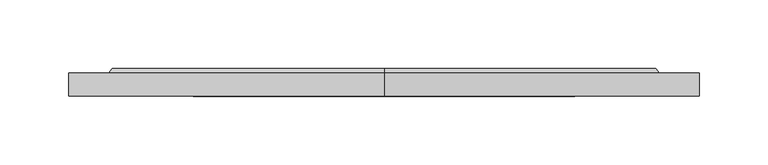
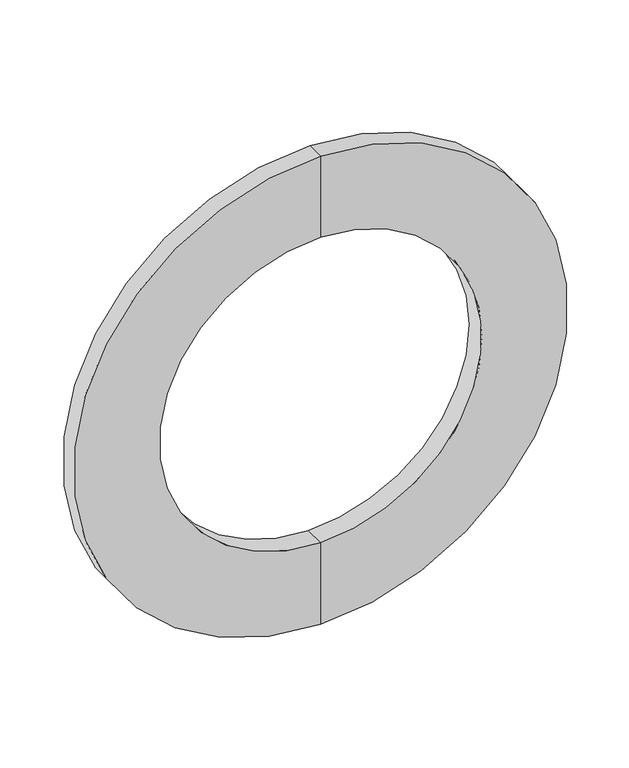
"""IFC4 building model written with IfcOpenShell, lengths in millimetres: pipe fitting geometry, Фланец : Фланец."""

from ifc_helpers import new_model, si_unit, frame, origin, place, context, project, spatial, polyline, circle_curve, source, transform, mapped, element, save
from ifc_brep_helpers import plane_surface, cylinder_surface, revolved_surface, advanced_brep


def pipe_fitting_c8a951b9(model_context):
    return source(origin(), model_context, "Body", "AdvancedBrep", [
        advanced_brep(
        [(0.0, 0.0, -230.0), (0.0, 0.0, 230.0), (0.0, 17.0, 230.0), (0.0, 17.0, -230.0), (0.0, 0.0, -150.0), (0.0, 0.0, 150.0), (0.0, 20.0, -150.0), (0.0, 20.0, 150.0), (0.0, 20.0, -198.5), (0.0, 20.0, 198.5), (0.0, 17.0, -201.0), (0.0, 17.0, 201.0)],
        [
            (0, 1, circle_curve(frame((0.0, 0.0, 0.0), z_axis=(0.0, 1.0, 0.0), x_axis=(0.0, 0.0, 1.0)), 230.0)),
            (1, 2),
            (2, 3, circle_curve(frame((0.0, 17.0, 0.0), z_axis=(0.0, -1.0, 0.0), x_axis=(0.0, 0.0, 1.0)), 230.0)),
            (3, 0),
            (1, 0, circle_curve(frame((0.0, 0.0, 0.0), z_axis=(0.0, 1.0, 0.0), x_axis=(0.0, 0.0, 1.0)), 230.0)),
            (3, 2, circle_curve(frame((0.0, 17.0, 0.0), z_axis=(0.0, -1.0, 0.0), x_axis=(0.0, 0.0, 1.0)), 230.0)),
            (4, 5, circle_curve(frame((0.0, 0.0, 0.0), z_axis=(0.0, 1.0, 0.0), x_axis=(0.0, 0.0, 1.0)), 150.0)),
            (5, 1),
            (0, 4),
            (5, 4, circle_curve(frame((0.0, 0.0, 0.0), z_axis=(0.0, 1.0, 0.0), x_axis=(0.0, 0.0, 1.0)), 150.0)),
            (6, 7, circle_curve(frame((0.0, 20.0, 0.0), z_axis=(0.0, 1.0, 0.0), x_axis=(0.0, 0.0, 1.0)), 150.0)),
            (7, 5),
            (4, 6),
            (7, 6, circle_curve(frame((0.0, 20.0, 0.0), z_axis=(0.0, 1.0, 0.0), x_axis=(0.0, 0.0, 1.0)), 150.0)),
            (8, 9, circle_curve(frame((0.0, 20.0, 0.0), z_axis=(0.0, 1.0, 0.0), x_axis=(0.0, 0.0, 1.0)), 198.5)),
            (9, 7),
            (6, 8),
            (9, 8, circle_curve(frame((0.0, 20.0, 0.0), z_axis=(0.0, 1.0, 0.0), x_axis=(0.0, 0.0, 1.0)), 198.5)),
            (10, 11, circle_curve(frame((0.0, 17.0, 0.0), z_axis=(0.0, 1.0, 0.0), x_axis=(0.0, 0.0, 1.0)), 201.0)),
            (11, 9),
            (8, 10),
            (11, 10, circle_curve(frame((0.0, 17.0, 0.0), z_axis=(0.0, 1.0, 0.0), x_axis=(0.0, 0.0, 1.0)), 201.0)),
            (2, 11),
            (10, 3),
        ],
        [
            cylinder_surface(frame((0.0, -60.0, 0.0), z_axis=(0.0, -1.0, 0.0), x_axis=(0.0, 0.0, 1.0)), 230.0),
            plane_surface(frame((0.0, 0.0, 0.0), z_axis=(0.0, -1.0, 0.0), x_axis=(0.0, 0.0, 1.0))),
            revolved_surface(polyline([(0.0, 0.0, 150.0), (0.0, 20.0, 150.0)]), (0.0, -60.0, 0.0), (0.0, -1.0, 0.0)),
            plane_surface(frame((0.0, 20.0, 0.0), z_axis=(0.0, 1.0, 0.0), x_axis=(0.0, 0.0, 1.0))),
            revolved_surface(polyline([(0.0, 20.0, 198.5), (0.0, 17.0, 201.0)]), (0.0, -60.0, 0.0), (0.0, -1.0, 0.0)),
            plane_surface(frame((0.0, 17.0, 0.0), z_axis=(0.0, 1.0, 0.0), x_axis=(0.0, 0.0, 1.0))),
        ],
        [
            (0, [[1, 2, 3, 4]]),
            (0, [[5, -4, 6, -2]]),
            (1, [[7, 8, -1, 9]]),
            (1, [[10, -9, -5, -8]]),
            (2, [[11, 12, -7, 13]]),
            (2, [[14, -13, -10, -12]]),
            (3, [[15, 16, -11, 17]]),
            (3, [[18, -17, -14, -16]]),
            (4, [[19, 20, -15, 21]]),
            (4, [[22, -21, -18, -20]]),
            (5, [[-3, 23, -19, 24]]),
            (5, [[-6, -24, -22, -23]]),
        ],
    ),
    ])


if __name__ == "__main__":
    model = new_model("IFC4")
    model_context = context("Model", 3, world=origin())
    ifc_project = project(units=[si_unit("LENGTHUNIT", "METRE", prefix="MILLI")], contexts=[model_context])
    site = spatial("IfcSite", under=ifc_project)
    building = spatial("IfcBuilding", under=site)
    placement = place(None, origin())
    pipe_fitting_shape = pipe_fitting_c8a951b9(model_context)
    element("IfcPipeFitting", 1, ObjectType="Фланец : Фланец", at=placement, inside=building, context=model_context, shape_type="MappedRepresentation", body=[
        mapped(pipe_fitting_shape, transform((0.0, 0.0, 0.0), x_axis=(1.0, 0.0, 0.0), y_axis=(0.0, 1.0, 0.0), z_axis=(0.0, 0.0, 1.0))),
    ])
    save(model, "model.ifc")
